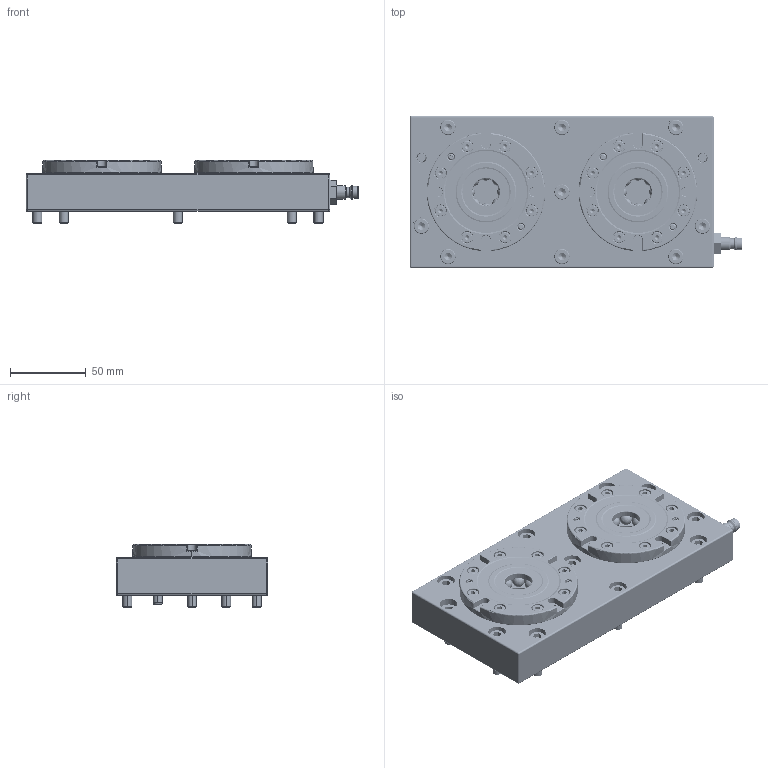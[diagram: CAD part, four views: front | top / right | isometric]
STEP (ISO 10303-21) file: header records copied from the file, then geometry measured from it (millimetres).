
FILE_DESCRIPTION (( 'STEP AP203' ), '1' );
FILE_NAME ('Q2GWB-5D.STEP', '2020-03-10T08:17:06', ( 'td' ), ( '' ), 'SwSTEP 2.0', 'SolidWorks 2018', '' );
FILE_SCHEMA (( 'CONFIG_CONTROL_DESIGN' ));
Products named in the file (1): Q2GWB-5D
Bounding box: 218.5 x 100 x 41.5 mm (x, y, z)
Volume: 544393.4 mm3; surface area: 114445.9 mm2
Topology: 29 solids, 221 shells, 3268 faces, 7602 edges, 4745 vertices
Faces by surface type: cone 1092, cylinder 1064, plane 774, torus 258, bspline 40, sphere 40
Entity records: 102743 total; most frequent: CARTESIAN_POINT 27360, DIRECTION 16836, ORIENTED_EDGE 14928, EDGE_CURVE 7464, AXIS2_PLACEMENT_3D 6925, VERTEX_POINT 4697, CIRCLE 3696, EDGE_LOOP 3571
